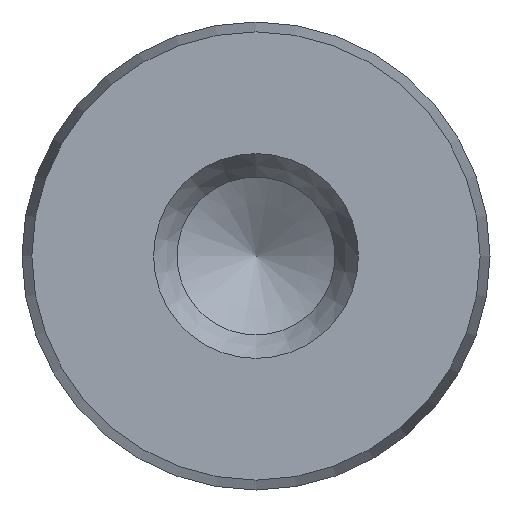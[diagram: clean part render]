
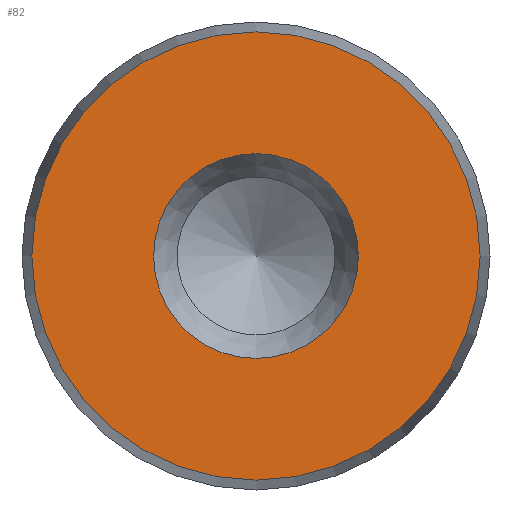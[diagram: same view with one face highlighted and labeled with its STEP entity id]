
A CAD part, front view. The second image highlights one B-rep face of the part: STEP entity #82.
In plain terms, the highlighted planar face has unit normal (0, -1, 0).
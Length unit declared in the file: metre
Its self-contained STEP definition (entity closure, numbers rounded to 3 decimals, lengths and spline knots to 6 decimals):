
#82 = ADVANCED_FACE( '', ( #108, #109 ), #110, .T. );
#108 = FACE_BOUND( '', #150, .T. );
#109 = FACE_OUTER_BOUND( '', #151, .T. );
#110 = PLANE( '', #152 );
#150 = EDGE_LOOP( '', ( #202 ) );
#151 = EDGE_LOOP( '', ( #203 ) );
#152 = AXIS2_PLACEMENT_3D( '', #204, #205, #206 );
#202 = ORIENTED_EDGE( '', *, *, #252, .T. );
#203 = ORIENTED_EDGE( '', *, *, #254, .T. );
#204 = CARTESIAN_POINT( '', ( 0., -0.056, 0. ) );
#205 = DIRECTION( '', ( 0., -1., 0. ) );
#206 = DIRECTION( '', ( 0., 0., -1. ) );
#252 = EDGE_CURVE( '', #270, #270, #271, .F. );
#254 = EDGE_CURVE( '', #274, #274, #275, .T. );
#270 = VERTEX_POINT( '', #296 );
#271 = CIRCLE( '', #297, 0.004375 );
#274 = VERTEX_POINT( '', #300 );
#275 = CIRCLE( '', #301, 0.009578 );
#296 = CARTESIAN_POINT( '', ( 0., -0.056, -0.004375 ) );
#297 = AXIS2_PLACEMENT_3D( '', #326, #327, #328 );
#300 = CARTESIAN_POINT( '', ( 0., -0.056, -0.009578 ) );
#301 = AXIS2_PLACEMENT_3D( '', #332, #333, #334 );
#326 = CARTESIAN_POINT( '', ( 0., -0.056, 0. ) );
#327 = DIRECTION( '', ( 0., -1., 0. ) );
#328 = DIRECTION( '', ( 0., 0., -1. ) );
#332 = CARTESIAN_POINT( '', ( 0., -0.056, 0. ) );
#333 = DIRECTION( '', ( 0., -1., 0. ) );
#334 = DIRECTION( '', ( 0., 0., -1. ) );
